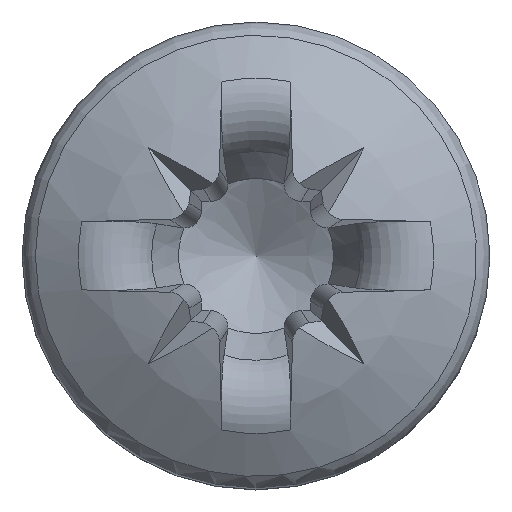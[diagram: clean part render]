
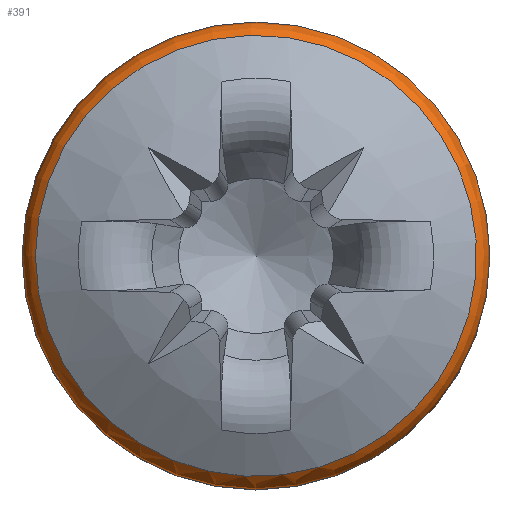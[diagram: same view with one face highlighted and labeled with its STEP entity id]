
A CAD part, top view. The second image highlights one B-rep face of the part: STEP entity #391.
In plain terms, the highlighted toroidal (fillet/blend) face has major radius 1.127 mm and minor radius 0.173 mm.
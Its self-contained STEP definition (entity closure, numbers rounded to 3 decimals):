
#313=TOROIDAL_SURFACE('',#1959,1.127,0.173);
#328=FACE_BOUND('',#624,.T.);
#329=FACE_BOUND('',#625,.T.);
#391=ADVANCED_FACE('',(#328,#329),#313,.T.);
#624=EDGE_LOOP('',(#1027));
#625=EDGE_LOOP('',(#1028));
#694=CIRCLE('',#1869,1.226);
#720=CIRCLE('',#1900,1.3);
#1027=ORIENTED_EDGE('',*,*,#1537,.F.);
#1028=ORIENTED_EDGE('',*,*,#1497,.F.);
#1323=VERTEX_POINT('',#4491);
#1361=VERTEX_POINT('',#4760);
#1497=EDGE_CURVE('',#1323,#1323,#694,.T.);
#1537=EDGE_CURVE('',#1361,#1361,#720,.T.);
#1869=AXIS2_PLACEMENT_3D('',#4490,#1978,#1979);
#1900=AXIS2_PLACEMENT_3D('',#4759,#2040,#2041);
#1959=AXIS2_PLACEMENT_3D('',#5276,#2190,#2191);
#1978=DIRECTION('',(0.,0.,1.));
#1979=DIRECTION('',(-1.,0.,0.));
#2040=DIRECTION('',(0.,0.,-1.));
#2041=DIRECTION('',(-1.,0.,0.));
#2190=DIRECTION('',(0.,0.,-1.));
#2191=DIRECTION('',(-1.,0.,0.));
#4490=CARTESIAN_POINT('',(0.,0.,0.714));
#4491=CARTESIAN_POINT('',(-1.226,0.,0.714));
#4759=CARTESIAN_POINT('',(0.,0.,0.572));
#4760=CARTESIAN_POINT('',(-1.3,0.,0.572));
#5276=CARTESIAN_POINT('',(0.,0.,0.572));
